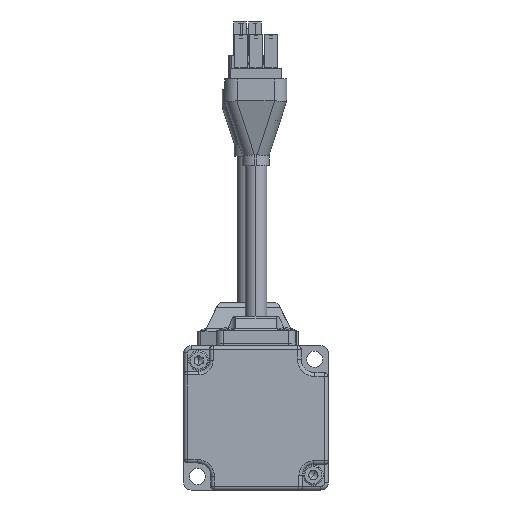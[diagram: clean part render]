
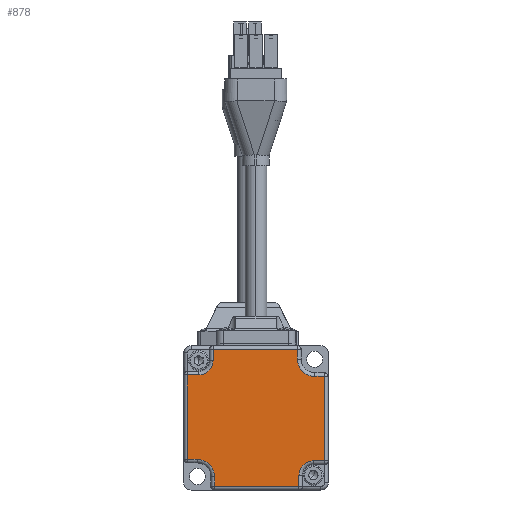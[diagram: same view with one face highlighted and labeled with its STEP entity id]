
A CAD part, front view. The second image highlights one B-rep face of the part: STEP entity #878.
In plain terms, the highlighted planar face has unit normal (0, -1, 0).
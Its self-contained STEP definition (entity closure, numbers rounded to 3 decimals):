
#878 = ADVANCED_FACE ( 'NONE', ( #17377 ), #35208, .F. ) ;
#2538 = VERTEX_POINT ( 'NONE', #28883 ) ;
#2539 = VERTEX_POINT ( 'NONE', #28884 ) ;
#2540 = VERTEX_POINT ( 'NONE', #28885 ) ;
#2541 = VERTEX_POINT ( 'NONE', #28886 ) ;
#2545 = VERTEX_POINT ( 'NONE', #28890 ) ;
#2546 = VERTEX_POINT ( 'NONE', #28891 ) ;
#2547 = VERTEX_POINT ( 'NONE', #28892 ) ;
#2548 = VERTEX_POINT ( 'NONE', #28893 ) ;
#2549 = VERTEX_POINT ( 'NONE', #28894 ) ;
#2555 = VERTEX_POINT ( 'NONE', #28900 ) ;
#2556 = VERTEX_POINT ( 'NONE', #28901 ) ;
#2561 = VERTEX_POINT ( 'NONE', #28906 ) ;
#2562 = VERTEX_POINT ( 'NONE', #28907 ) ;
#2564 = VERTEX_POINT ( 'NONE', #28909 ) ;
#2565 = VERTEX_POINT ( 'NONE', #28910 ) ;
#2566 = VERTEX_POINT ( 'NONE', #28911 ) ;
#8805 = EDGE_CURVE ( 'NONE', #2556, #2564, #39662, .T. ) ;
#8821 = EDGE_CURVE ( 'NONE', #2561, #2562, #39690, .T. ) ;
#8823 = EDGE_CURVE ( 'NONE', #2565, #2566, #39693, .T. ) ;
#8824 = EDGE_CURVE ( 'NONE', #2566, #2561, #39695, .T. ) ;
#8826 = EDGE_CURVE ( 'NONE', #2549, #2538, #39699, .T. ) ;
#8828 = EDGE_CURVE ( 'NONE', #2538, #2556, #39702, .T. ) ;
#8829 = EDGE_CURVE ( 'NONE', #2564, #2565, #39704, .T. ) ;
#8855 = EDGE_CURVE ( 'NONE', #2539, #2540, #39748, .T. ) ;
#8856 = EDGE_CURVE ( 'NONE', #2541, #2539, #39749, .T. ) ;
#8857 = EDGE_CURVE ( 'NONE', #2545, #2541, #39751, .T. ) ;
#8858 = EDGE_CURVE ( 'NONE', #2555, #2545, #39752, .T. ) ;
#8859 = EDGE_CURVE ( 'NONE', #2540, #2548, #39754, .T. ) ;
#8860 = EDGE_CURVE ( 'NONE', #2547, #2546, #39756, .T. ) ;
#8861 = EDGE_CURVE ( 'NONE', #2548, #2547, #39758, .T. ) ;
#8862 = EDGE_CURVE ( 'NONE', #2546, #2549, #39759, .T. ) ;
#8863 = EDGE_CURVE ( 'NONE', #2562, #2555, #39761, .T. ) ;
#10046 = ORIENTED_EDGE ( 'NONE', *, *, #8821, .T. ) ;
#10047 = ORIENTED_EDGE ( 'NONE', *, *, #8863, .T. ) ;
#10048 = ORIENTED_EDGE ( 'NONE', *, *, #8824, .T. ) ;
#10049 = ORIENTED_EDGE ( 'NONE', *, *, #8823, .T. ) ;
#10050 = ORIENTED_EDGE ( 'NONE', *, *, #8829, .T. ) ;
#10051 = ORIENTED_EDGE ( 'NONE', *, *, #8828, .T. ) ;
#10052 = ORIENTED_EDGE ( 'NONE', *, *, #8805, .T. ) ;
#10053 = ORIENTED_EDGE ( 'NONE', *, *, #8826, .T. ) ;
#10054 = ORIENTED_EDGE ( 'NONE', *, *, #8862, .T. ) ;
#10055 = ORIENTED_EDGE ( 'NONE', *, *, #8860, .T. ) ;
#10056 = ORIENTED_EDGE ( 'NONE', *, *, #8859, .T. ) ;
#10057 = ORIENTED_EDGE ( 'NONE', *, *, #8861, .T. ) ;
#10066 = ORIENTED_EDGE ( 'NONE', *, *, #8855, .T. ) ;
#10067 = ORIENTED_EDGE ( 'NONE', *, *, #8856, .T. ) ;
#10068 = ORIENTED_EDGE ( 'NONE', *, *, #8857, .T. ) ;
#10069 = ORIENTED_EDGE ( 'NONE', *, *, #8858, .T. ) ;
#16782 = EDGE_LOOP ( 'NONE', ( #10069, #10068, #10067, #10066, #10056, #10057, #10055, #10054, #10053, #10051, #10052, #10050, #10049, #10048, #10046, #10047 ) ) ;
#17377 = FACE_OUTER_BOUND ( 'NONE', #16782, .T. ) ;
#17542 = AXIS2_PLACEMENT_3D ( 'NONE', #34762, #35022, #35219 ) ;
#28883 = CARTESIAN_POINT ( 'NONE',  ( -11.91, 0., 19. ) ) ;
#28884 = CARTESIAN_POINT ( 'NONE',  ( 15.91, 0., -11.91 ) ) ;
#28885 = CARTESIAN_POINT ( 'NONE',  ( 19., 0., -11.91 ) ) ;
#28886 = CARTESIAN_POINT ( 'NONE',  ( 11.91, 0., -15.91 ) ) ;
#28890 = CARTESIAN_POINT ( 'NONE',  ( 11.91, 0., -19. ) ) ;
#28891 = CARTESIAN_POINT ( 'NONE',  ( 11.5, 0., 16.3 ) ) ;
#28892 = CARTESIAN_POINT ( 'NONE',  ( 16.3, 0., 11.5 ) ) ;
#28893 = CARTESIAN_POINT ( 'NONE',  ( 19., 0., 11.5 ) ) ;
#28894 = CARTESIAN_POINT ( 'NONE',  ( 11.5, 0., 19. ) ) ;
#28900 = CARTESIAN_POINT ( 'NONE',  ( -11.5, 0., -19. ) ) ;
#28901 = CARTESIAN_POINT ( 'NONE',  ( -11.91, 0., 15.91 ) ) ;
#28906 = CARTESIAN_POINT ( 'NONE',  ( -16.3, 0., -11.5 ) ) ;
#28907 = CARTESIAN_POINT ( 'NONE',  ( -11.5, 0., -16.3 ) ) ;
#28909 = CARTESIAN_POINT ( 'NONE',  ( -15.91, 0., 11.91 ) ) ;
#28910 = CARTESIAN_POINT ( 'NONE',  ( -19., 0., 11.91 ) ) ;
#28911 = CARTESIAN_POINT ( 'NONE',  ( -19., 0., -11.5 ) ) ;
#34762 = CARTESIAN_POINT ( 'NONE',  ( -20., 0., 20. ) ) ;
#35022 = DIRECTION ( 'NONE',  ( 0., 1., 0. ) ) ;
#35208 = PLANE ( 'NONE',  #17542 ) ;
#35219 = DIRECTION ( 'NONE',  ( 0., 0., 1. ) ) ;
#35679 = AXIS2_PLACEMENT_3D ( 'NONE', #40813, #40814, #40815 ) ;
#35685 = AXIS2_PLACEMENT_3D ( 'NONE', #40850, #40851, #40852 ) ;
#35707 = AXIS2_PLACEMENT_3D ( 'NONE', #40930, #40931, #40932 ) ;
#35709 = AXIS2_PLACEMENT_3D ( 'NONE', #40938, #40939, #40940 ) ;
#39662 = CIRCLE ( 'NONE', #35679, 4. ) ;
#39690 = CIRCLE ( 'NONE', #35685, 4.8 ) ;
#39693 = LINE ( 'NONE', #40853, #39696 ) ;
#39695 = LINE ( 'NONE', #40855, #39698 ) ;
#39696 = VECTOR ( 'NONE', #40854, 1000. ) ;
#39698 = VECTOR ( 'NONE', #40856, 1000. ) ;
#39699 = LINE ( 'NONE', #40848, #39701 ) ;
#39701 = VECTOR ( 'NONE', #40849, 1000. ) ;
#39702 = LINE ( 'NONE', #40862, #39705 ) ;
#39704 = LINE ( 'NONE', #40864, #39707 ) ;
#39705 = VECTOR ( 'NONE', #40863, 1000. ) ;
#39707 = VECTOR ( 'NONE', #40865, 1000. ) ;
#39748 = LINE ( 'NONE', #40918, #39750 ) ;
#39749 = CIRCLE ( 'NONE', #35707, 4. ) ;
#39750 = VECTOR ( 'NONE', #40919, 1000. ) ;
#39751 = LINE ( 'NONE', #40923, #39753 ) ;
#39752 = LINE ( 'NONE', #40933, #39755 ) ;
#39753 = VECTOR ( 'NONE', #40924, 1000. ) ;
#39754 = LINE ( 'NONE', #40935, #39757 ) ;
#39755 = VECTOR ( 'NONE', #40934, 1000. ) ;
#39756 = CIRCLE ( 'NONE', #35709, 4.8 ) ;
#39757 = VECTOR ( 'NONE', #40936, 1000. ) ;
#39758 = LINE ( 'NONE', #40928, #39760 ) ;
#39759 = LINE ( 'NONE', #40941, #39762 ) ;
#39760 = VECTOR ( 'NONE', #40929, 1000. ) ;
#39761 = LINE ( 'NONE', #40943, #39764 ) ;
#39762 = VECTOR ( 'NONE', #40942, 1000. ) ;
#39764 = VECTOR ( 'NONE', #40944, 1000. ) ;
#40813 = CARTESIAN_POINT ( 'NONE',  ( -15.91, 0., 15.91 ) ) ;
#40814 = DIRECTION ( 'NONE',  ( 0., 1., 0. ) ) ;
#40815 = DIRECTION ( 'NONE',  ( 0., 0., 1. ) ) ;
#40848 = CARTESIAN_POINT ( 'NONE',  ( -20., 0., 19. ) ) ;
#40849 = DIRECTION ( 'NONE',  ( -1., 0., 0. ) ) ;
#40850 = CARTESIAN_POINT ( 'NONE',  ( -16.3, 0., -16.3 ) ) ;
#40851 = DIRECTION ( 'NONE',  ( 0., 1., 0. ) ) ;
#40852 = DIRECTION ( 'NONE',  ( 0., 0., 1. ) ) ;
#40853 = CARTESIAN_POINT ( 'NONE',  ( -19., 0., 20. ) ) ;
#40854 = DIRECTION ( 'NONE',  ( 0., 0., -1. ) ) ;
#40855 = CARTESIAN_POINT ( 'NONE',  ( -20., 0., -11.5 ) ) ;
#40856 = DIRECTION ( 'NONE',  ( 1., 0., 0. ) ) ;
#40862 = CARTESIAN_POINT ( 'NONE',  ( -11.91, 0., 20. ) ) ;
#40863 = DIRECTION ( 'NONE',  ( 0., 0., -1. ) ) ;
#40864 = CARTESIAN_POINT ( 'NONE',  ( -20., 0., 11.91 ) ) ;
#40865 = DIRECTION ( 'NONE',  ( -1., 0., 0. ) ) ;
#40918 = CARTESIAN_POINT ( 'NONE',  ( -20., 0., -11.91 ) ) ;
#40919 = DIRECTION ( 'NONE',  ( 1., 0., 0. ) ) ;
#40923 = CARTESIAN_POINT ( 'NONE',  ( 11.91, 0., 20. ) ) ;
#40924 = DIRECTION ( 'NONE',  ( 0., 0., 1. ) ) ;
#40928 = CARTESIAN_POINT ( 'NONE',  ( -20., 0., 11.5 ) ) ;
#40929 = DIRECTION ( 'NONE',  ( -1., 0., 0. ) ) ;
#40930 = CARTESIAN_POINT ( 'NONE',  ( 15.91, 0., -15.91 ) ) ;
#40931 = DIRECTION ( 'NONE',  ( 0., 1., 0. ) ) ;
#40932 = DIRECTION ( 'NONE',  ( 0., 0., 1. ) ) ;
#40933 = CARTESIAN_POINT ( 'NONE',  ( -20., 0., -19. ) ) ;
#40934 = DIRECTION ( 'NONE',  ( 1., 0., 0. ) ) ;
#40935 = CARTESIAN_POINT ( 'NONE',  ( 19., 0., 20. ) ) ;
#40936 = DIRECTION ( 'NONE',  ( 0., 0., 1. ) ) ;
#40938 = CARTESIAN_POINT ( 'NONE',  ( 16.3, 0., 16.3 ) ) ;
#40939 = DIRECTION ( 'NONE',  ( 0., 1., 0. ) ) ;
#40940 = DIRECTION ( 'NONE',  ( 0., 0., 1. ) ) ;
#40941 = CARTESIAN_POINT ( 'NONE',  ( 11.5, 0., 20. ) ) ;
#40942 = DIRECTION ( 'NONE',  ( 0., 0., 1. ) ) ;
#40943 = CARTESIAN_POINT ( 'NONE',  ( -11.5, 0., 20. ) ) ;
#40944 = DIRECTION ( 'NONE',  ( 0., 0., -1. ) ) ;
